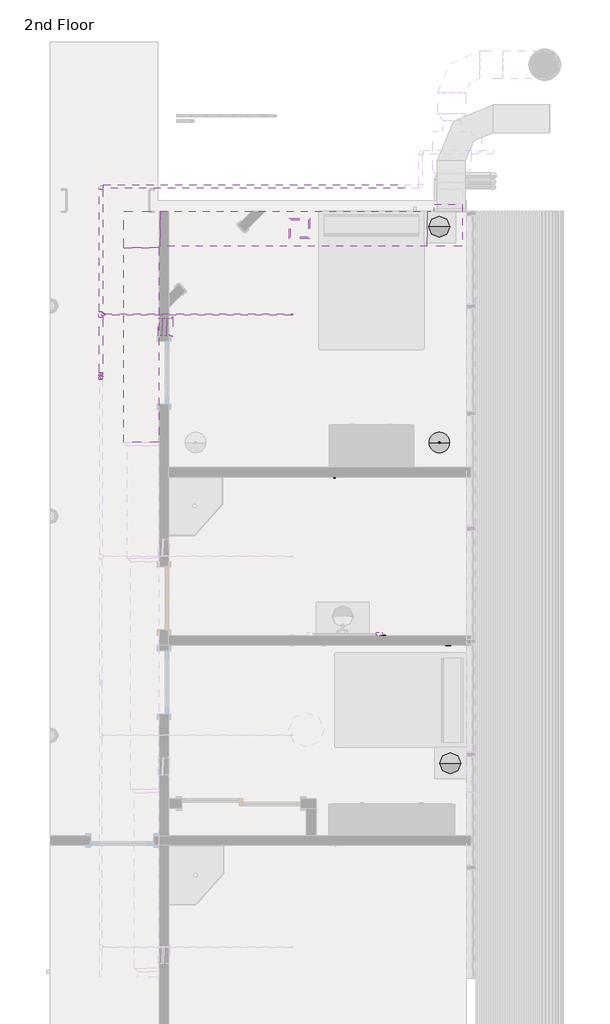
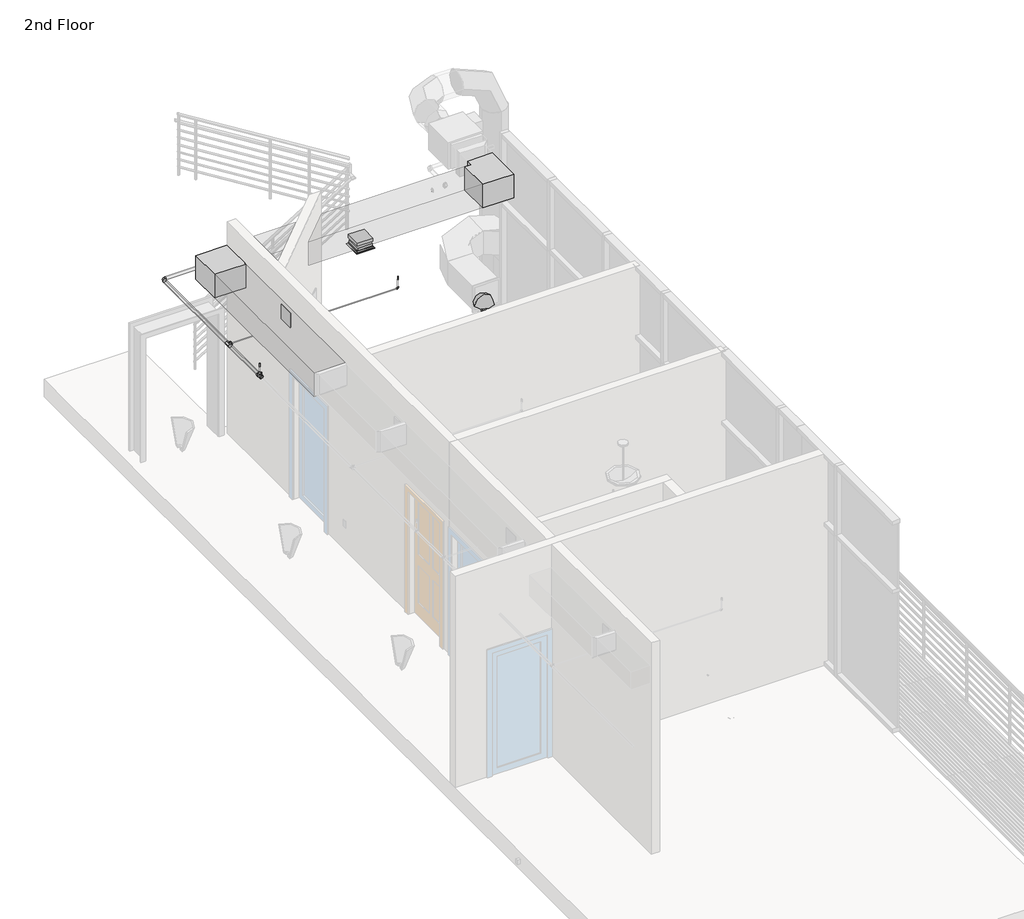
# One storey, part 6 of 7: 26 pipe fittings, 22 pipe segments, 6 proxies, 4 duct fittings, 4 duct segments, 4 light fixtures, 2 air terminals, 2 fire suppression terminals.
"""IFC4 building model written with IfcOpenShell, lengths in millimetres."""

from ifc_helpers import new_model, si_unit, point, frame, frame_2d, origin, place, context, project, spatial, polyline, circle_curve, trimmed, segment, composite_curve, outline, extrude, transform, mapped, element, save
from components import air_terminal_37217d21, receptacle_gfci_367a9a66, rectangular_duct_mitered_elbow_standard_69e3689b, rectangular_duct_mitered_transition_elbow_standard_b977c078, rectangular_duct_takeoff_sidewall_standard_8ecd27dc, fire_suppression_terminal_f250fbbb, light_fixture_120v_8a54b260, table_lamp_hemispheric_60w_120v_02721d88, bow_series_bow_series_fd234733, pipe_cross1_standard_2_39504a02, pipe_elbow_standard_aad62f2d, pipe_elbow_standard_764eecca, pipe_pvc_bend_standard_9d146105, pipe_pvc_bend_standard_c0176095, pipe_pvc_short_sanitary_tee_standard_09ca7ede, pipe_pvc_transition_eccentric_standard_ba6eeb78, pipe_pvc_transition_eccentric_standard_ac0fe892, pipe_tee_standard_36278b8a, pipe_transition_eccentric_standard_8ef0957a, pipe_transition_eccentric_standard_a6a91236, pipe_transition_eccentric_standard_83c73321

model = new_model("IFC4")

# Units and contexts
model_context = context("Model", 3, world=origin())
ifc_project = project(units=[si_unit("LENGTHUNIT", "METRE", prefix="MILLI")], contexts=[model_context])

# Site, building, storey
site = spatial("IfcSite", under=ifc_project)
building = spatial("IfcBuilding", under=site)
storey = spatial("IfcBuildingStorey", under=building, Name="2nd Floor", Elevation=7924.8)

# Air terminals
placement = place(None, origin())
air_terminal_shape = air_terminal_37217d21(model_context)
element("IfcAirTerminal", 1, ObjectType="Sidewall Diffuser : 10\" x 10\"", at=placement, inside=storey, context=model_context, shape_type="MappedRepresentation", body=[
    mapped(air_terminal_shape, transform((-2699.6858348, 7475.959643, 10972.8), x_axis=(0.0, 1.0, 0.0), y_axis=(-1.0, 0.0, 0.0), z_axis=(0.0, 0.0, 1.0))),
])
element("IfcAirTerminal", 2, ObjectType="Sidewall Diffuser : 10\" x 10\"", at=placement, inside=storey, context=model_context, shape_type="MappedRepresentation", body=[
    mapped(air_terminal_shape, transform((-852.834622, 8898.359643, 10609.3939384), x_axis=(0.0, 1.0, 0.0), y_axis=(0.0, 0.0, 1.0), z_axis=(1.0, 0.0, 0.0))),
])

# Proxies
receptacle_gfci_shape = receptacle_gfci_367a9a66(model_context)
element("IfcBuildingElementProxy", 3, Name="Receptacle : Standard", ObjectType="Receptacle : Standard", at=placement, inside=storey, context=model_context, shape_type="MappedRepresentation", body=[
    mapped(receptacle_gfci_shape, transform((-1012.6439612, 9152.359643, 7772.4), x_axis=(1.0, 0.0, 0.0), y_axis=(0.0, 0.0, 1.0), z_axis=(0.0, -1.0, 0.0))),
])
element("IfcBuildingElementProxy", 4, Name="Receptacle : Standard", ObjectType="Receptacle : Standard", at=placement, inside=storey, context=model_context, shape_type="MappedRepresentation", body=[
    mapped(receptacle_gfci_shape, transform((-1041.1604947, 5438.4810017, 8382.0), x_axis=(-1.0, 0.0, 0.0), y_axis=(0.0, 0.0, 1.0), z_axis=(0.0, 1.0, 0.0))),
])
element("IfcBuildingElementProxy", 5, Name="Receptacle : Standard", ObjectType="Receptacle : Standard", at=placement, inside=storey, context=model_context, shape_type="MappedRepresentation", body=[
    mapped(receptacle_gfci_shape, transform((1171.7560388, 5438.4810017, 8382.0), x_axis=(-1.0, 0.0, 0.0), y_axis=(0.0, 0.0, 1.0), z_axis=(0.0, 1.0, 0.0))),
])
element("IfcBuildingElementProxy", 6, Name="Receptacle : Standard", ObjectType="Receptacle : Standard", at=placement, inside=storey, context=model_context, shape_type="MappedRepresentation", body=[
    mapped(receptacle_gfci_shape, transform((358.9560388, 3000.0810017, 8382.0), x_axis=(-1.0, 0.0, 0.0), y_axis=(0.0, 0.0, 1.0), z_axis=(0.0, 1.0, 0.0))),
])
element("IfcBuildingElementProxy", 7, Name="Receptacle : Standard", ObjectType="Receptacle : Standard", at=placement, inside=storey, context=model_context, shape_type="MappedRepresentation", body=[
    mapped(receptacle_gfci_shape, transform((1298.7560388, 2860.3810017, 8382.0), x_axis=(1.0, 0.0, 0.0), y_axis=(0.0, 0.0, 1.0), z_axis=(0.0, -1.0, 0.0))),
])
element("IfcBuildingElementProxy", 8, Name="Receptacle : Standard", ObjectType="Receptacle : Standard", at=placement, inside=storey, context=model_context, shape_type="MappedRepresentation", body=[
    mapped(receptacle_gfci_shape, transform((381.2395053, 100.9674546, 8382.0), x_axis=(-1.0, 0.0, 0.0), y_axis=(0.0, 0.0, 1.0), z_axis=(0.0, 1.0, 0.0))),
])

# Duct fittings
rectangular_duct_mitered_elbow_standard_shape = rectangular_duct_mitered_elbow_standard_69e3689b(model_context)
element("IfcDuctFitting", 9, ObjectType="Rectangular Duct Mitered Elbow : Standard", at=placement, inside=storey, context=model_context, shape_type="MappedRepresentation", body=[
    mapped(rectangular_duct_mitered_elbow_standard_shape, transform((-3149.3604947, 8898.359643, 10972.8), x_axis=(0.0, 1.0, 0.0), y_axis=(1.0, 0.0, 0.0), z_axis=(0.0, 0.0, -1.0))),
])
rectangular_duct_mitered_transition_elbow_standard_shape = rectangular_duct_mitered_transition_elbow_standard_b977c078(model_context)
element("IfcDuctFitting", 10, ObjectType="Rectangular Duct Mitered Transition Elbow : Standard", at=placement, inside=storey, context=model_context, shape_type="MappedRepresentation", body=[
    mapped(rectangular_duct_mitered_transition_elbow_standard_shape, transform((1302.1183521, 8898.359643, 10972.8), x_axis=(1.0, 0.0, 0.0), y_axis=(0.0, 1.0, 0.0), z_axis=(0.0, 0.0, 1.0))),
])
rectangular_duct_takeoff_sidewall_standard_shape = rectangular_duct_takeoff_sidewall_standard_8ecd27dc(model_context)
element("IfcDuctFitting", 11, ObjectType="Rectangular Duct Takeoff - Sidewall : Standard", at=placement, inside=storey, context=model_context, shape_type="MappedRepresentation", body=[
    mapped(rectangular_duct_takeoff_sidewall_standard_shape, transform((-2895.3604947, 7475.959643, 10972.8), x_axis=(1.0, 0.0, 0.0), y_axis=(0.0, -1.0, 0.0), z_axis=(0.0, 0.0, -1.0))),
])
element("IfcDuctFitting", 12, ObjectType="Rectangular Duct Takeoff - Sidewall : Standard", at=placement, inside=storey, context=model_context, shape_type="MappedRepresentation", body=[
    mapped(rectangular_duct_takeoff_sidewall_standard_shape, transform((-852.834622, 8898.359643, 10769.6), x_axis=(0.0, 0.0, -1.0), y_axis=(0.0, 1.0, 0.0), z_axis=(1.0, 0.0, 0.0))),
])

# Duct segments
element("IfcDuctSegment", 13, ObjectType="Mitered Elbows / Taps", at=placement, inside=storey, context=model_context, shape_type="SweptSolid", body=[
    extrude(outline(polyline([(997.3183521, 9152.359643), (997.3183521, 8644.359643), (-2869.9604947, 8644.359643), (-2869.9604947, 9152.359643), (997.3183521, 9152.359643)])), frame((0.0, 0.0, 10769.6), z_axis=(0.0, 0.0, 1.0), x_axis=(1.0, 0.0, 0.0)), (0.0, 0.0, 1.0), 406.4),
])
element("IfcDuctSegment", 14, ObjectType="Mitered Elbows / Taps", at=placement, inside=storey, context=model_context, shape_type="SweptSolid", body=[
    extrude(outline(polyline([(-979.834622, 9025.359643), (-725.834622, 9025.359643), (-725.834622, 8771.359643), (-979.834622, 8771.359643), (-979.834622, 9025.359643)])), frame((0.0, 0.0, 10685.5939384), z_axis=(0.0, 0.0, 1.0), x_axis=(1.0, 0.0, 0.0)), (0.0, 0.0, 1.0), 33.2060616),
])
element("IfcDuctSegment", 15, ObjectType="Mitered Elbows / Taps Sidewall", at=placement, inside=storey, context=model_context, shape_type="SweptSolid", body=[
    extrude(outline(polyline([(-2844.5604947, 7348.959643), (-2844.5604947, 7602.959643), (-2775.8858348, 7602.959643), (-2775.8858348, 7348.959643), (-2844.5604947, 7348.959643)])), frame((0.0, 0.0, 10845.8), z_axis=(0.0, 0.0, 1.0), x_axis=(1.0, 0.0, 0.0)), (0.0, 0.0, 1.0), 254.0),
])
element("IfcDuctSegment", 16, ObjectType="Mitered Elbows / Tees", at=placement, inside=storey, context=model_context, shape_type="SweptSolid", body=[
    extrude(outline(polyline([(-2895.3604947, 5800.4310017), (-3403.3604947, 5800.4310017), (-3403.3604947, 8618.959643), (-2895.3604947, 8618.959643), (-2895.3604947, 5800.4310017)])), frame((0.0, 0.0, 10769.6), z_axis=(0.0, 0.0, 1.0), x_axis=(1.0, 0.0, 0.0)), (0.0, 0.0, 1.0), 406.4),
])

# Fire suppression terminals
fire_suppression_terminal_shape = fire_suppression_terminal_f250fbbb(model_context)
element("IfcFireSuppressionTerminal", 17, ObjectType="Sprinkler - Upright : 1/2\" Upright", at=placement, inside=storey, context=model_context, shape_type="MappedRepresentation", body=[
    mapped(fire_suppression_terminal_shape, transform((-3733.5604947, 6767.5768256, 10820.4), x_axis=(1.0, 0.0, 0.0), y_axis=(0.0, 1.0, 0.0), z_axis=(0.0, 0.0, 1.0))),
])
element("IfcFireSuppressionTerminal", 18, ObjectType="Sprinkler - Upright : 1/2\" Upright", at=placement, inside=storey, context=model_context, shape_type="MappedRepresentation", body=[
    mapped(fire_suppression_terminal_shape, transform((-961.8439612, 7654.6310017, 10820.4), x_axis=(1.0, 0.0, 0.0), y_axis=(0.0, 1.0, 0.0), z_axis=(0.0, 0.0, 1.0))),
])

# Light fixtures
light_fixture_120v_shape = light_fixture_120v_8a54b260(model_context)
element("IfcLightFixture", 19, ObjectType="Floor Lamp - Torchiere : 120V", at=placement, inside=storey, context=model_context, shape_type="MappedRepresentation", body=[
    mapped(light_fixture_120v_shape, transform((1171.7560388, 5799.559643, 7924.8), x_axis=(1.0, 0.0, 0.0), y_axis=(0.0, 1.0, 0.0), z_axis=(0.0, 0.0, 1.0))),
])
table_lamp_hemispheric_60w_120v_shape = table_lamp_hemispheric_60w_120v_02721d88(model_context)
element("IfcLightFixture", 20, ObjectType="Table Lamp - Hemispheric : 60W - 120V", at=placement, inside=storey, context=model_context, shape_type="MappedRepresentation", body=[
    mapped(table_lamp_hemispheric_60w_120v_shape, transform((1171.7560388, 8923.759643, 8521.7), x_axis=(1.0, 0.0, 0.0), y_axis=(0.0, 1.0, 0.0), z_axis=(0.0, 0.0, 1.0))),
])
element("IfcLightFixture", 21, ObjectType="Table Lamp - Hemispheric : 60W - 120V", at=placement, inside=storey, context=model_context, shape_type="MappedRepresentation", body=[
    mapped(table_lamp_hemispheric_60w_120v_shape, transform((1330.5060388, 1152.2310017, 8521.7), x_axis=(1.0, 0.0, 0.0), y_axis=(0.0, 1.0, 0.0), z_axis=(0.0, 0.0, 1.0))),
])
bow_series_bow_series_shape = bow_series_bow_series_fd234733(model_context)
element("IfcLightFixture", 22, ObjectType="bow series : bow series", at=placement, inside=storey, context=model_context, shape_type="MappedRepresentation", body=[
    mapped(bow_series_bow_series_shape, transform((299.4311388, 3035.8061017, 9144.0), x_axis=(-1.0, 0.0, 0.0), y_axis=(0.0, -1.0, 0.0), z_axis=(0.0, 0.0, 1.0))),
])

# Pipe fittings
pipe_cross1_standard_2_shape = pipe_cross1_standard_2_39504a02(model_context)
element("IfcPipeFitting", 23, ObjectType="Pipe Cross1 : Standard 2", at=placement, inside=storey, context=model_context, shape_type="MappedRepresentation", body=[
    mapped(pipe_cross1_standard_2_shape, transform((-937.0514215, 5355.9306764, 7213.6), x_axis=(-1.0, 0.0, 0.0), y_axis=(0.0, 1.0, 0.0), z_axis=(0.0, 0.0, -1.0))),
])
pipe_elbow_standard_shape = pipe_elbow_standard_aad62f2d(model_context)
element("IfcPipeFitting", 24, ObjectType="Pipe Elbow : Standard", at=placement, inside=storey, context=model_context, shape_type="MappedRepresentation", body=[
    mapped(pipe_elbow_standard_shape, transform((-347.7399342, 5355.9306764, 7213.6), x_axis=(0.0, 0.0, -1.0), y_axis=(-1.0, 0.0, 0.0), z_axis=(0.0, 1.0, 0.0))),
])
element("IfcPipeFitting", 25, ObjectType="Pipe Elbow : Standard", at=placement, inside=storey, context=model_context, shape_type="MappedRepresentation", body=[
    mapped(pipe_elbow_standard_shape, transform((-347.7399342, 5355.9306764, 8428.0375), x_axis=(0.0, 0.0, 1.0), y_axis=(0.0, -1.0, 0.0), z_axis=(1.0, 0.0, 0.0))),
])
pipe_elbow_standard_2_shape = pipe_elbow_standard_764eecca(model_context)
element("IfcPipeFitting", 26, ObjectType="Pipe Elbow : Standard", at=placement, inside=storey, context=model_context, shape_type="MappedRepresentation", body=[
    mapped(pipe_elbow_standard_2_shape, transform((1321.5267673, 8799.990828, 7315.2), x_axis=(0.0, -1.0, 0.0), y_axis=(-1.0, 0.0, 0.0), z_axis=(0.0, 0.0, -1.0))),
])
element("IfcPipeFitting", 27, ObjectType="Pipe Elbow : Standard", at=placement, inside=storey, context=model_context, shape_type="MappedRepresentation", body=[
    mapped(pipe_elbow_standard_2_shape, transform((-1039.2875177, 8895.6114915, 7315.2), x_axis=(0.0, 1.0, 0.0), y_axis=(1.0, 0.0, 0.0), z_axis=(0.0, 0.0, -1.0))),
])
element("IfcPipeFitting", 28, ObjectType="Pipe Elbow : Standard", at=placement, inside=storey, context=model_context, shape_type="MappedRepresentation", body=[
    mapped(pipe_elbow_standard_2_shape, transform((1239.0339673, 8895.6114915, 7315.2), x_axis=(0.0, -1.0, 0.0), y_axis=(-1.0, 0.0, 0.0), z_axis=(0.0, 0.0, -1.0))),
])
element("IfcPipeFitting", 29, ObjectType="Pipe Elbow : Standard", at=placement, inside=storey, context=model_context, shape_type="MappedRepresentation", body=[
    mapped(pipe_elbow_standard_2_shape, transform((-937.0514215, 8799.990828, 7315.2), x_axis=(-1.0, 0.0, 0.0), y_axis=(0.0, -1.0, 0.0), z_axis=(0.0, 0.0, 1.0))),
])
element("IfcPipeFitting", 30, ObjectType="Pipe Elbow1 : Standard 2", at=placement, inside=storey, context=model_context, shape_type="MappedRepresentation", body=[
    mapped(pipe_elbow_standard_2_shape, transform((-3733.5604947, 9507.959643, 10668.0), x_axis=(0.0, 1.0, 0.0), y_axis=(1.0, 0.0, 0.0), z_axis=(0.0, 0.0, -1.0))),
])
element("IfcPipeFitting", 31, ObjectType="Pipe Elbow1 : Standard 2", at=placement, inside=storey, context=model_context, shape_type="MappedRepresentation", body=[
    mapped(pipe_elbow_standard_2_shape, transform((-937.0514215, 5466.2619422, 7213.6), x_axis=(0.0, 1.0, 0.0), y_axis=(0.0, 0.0, 1.0), z_axis=(1.0, 0.0, 0.0))),
])
element("IfcPipeFitting", 32, ObjectType="Pipe Elbow1 : Standard 2", at=placement, inside=storey, context=model_context, shape_type="MappedRepresentation", body=[
    mapped(pipe_elbow_standard_2_shape, transform((-937.0514215, 5466.2619422, 7315.2), x_axis=(0.0, 0.0, 1.0), y_axis=(0.0, 1.0, 0.0), z_axis=(-1.0, 0.0, 0.0))),
])
element("IfcPipeFitting", 33, ObjectType="Pipe Elbow1 : Standard 2", at=placement, inside=storey, context=model_context, shape_type="MappedRepresentation", body=[
    mapped(pipe_elbow_standard_shape, transform((-961.8439612, 7654.6310017, 10668.0), x_axis=(0.0, 0.0, -1.0), y_axis=(-1.0, 0.0, 0.0), z_axis=(0.0, 1.0, 0.0))),
])
pipe_pvc_bend_standard_shape = pipe_pvc_bend_standard_9d146105(model_context)
element("IfcPipeFitting", 34, ObjectType="Pipe PVC Bend : Standard", at=placement, inside=storey, context=model_context, shape_type="MappedRepresentation", body=[
    mapped(pipe_pvc_bend_standard_shape, transform((-1102.7042057, 9004.6705514, 7349.2766607), x_axis=(-0.9999459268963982, 0.0, 0.010399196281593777), y_axis=(0.00010831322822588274, -0.9999457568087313, 0.010414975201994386), z_axis=(0.010398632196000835, 0.010415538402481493, 0.9998916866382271))),
])
pipe_pvc_bend_standard_2_shape = pipe_pvc_bend_standard_c0176095(model_context)
element("IfcPipeFitting", 35, ObjectType="Pipe PVC Bend : Standard", at=placement, inside=storey, context=model_context, shape_type="MappedRepresentation", body=[
    mapped(pipe_pvc_bend_standard_2_shape, transform((-1260.8954878, 5211.6750912, 7390.4348559), x_axis=(-0.9999457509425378, 0.0, 0.010416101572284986), y_axis=(0.010415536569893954, 0.010415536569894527, 0.9998915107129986), z_axis=(-0.00010848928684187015, 0.9999457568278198, -0.010414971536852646))),
])
element("IfcPipeFitting", 36, ObjectType="Pipe PVC Bend : Standard", at=placement, inside=storey, context=model_context, shape_type="MappedRepresentation", body=[
    mapped(pipe_pvc_bend_standard_2_shape, transform((-1394.1145616, 5213.0626394, 7525.04163), x_axis=(-0.7034146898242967, 0.007326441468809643, 0.7107419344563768), y_axis=(-0.7107796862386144, -0.007403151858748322, -0.7033757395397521), z_axis=(0.00010848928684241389, -0.9999457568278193, 0.010414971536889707))),
])
pipe_pvc_short_sanitary_tee_standard_shape = pipe_pvc_short_sanitary_tee_standard_09ca7ede(model_context)
element("IfcPipeFitting", 37, ObjectType="Pipe PVC Short Sanitary Tee : Standard", at=placement, inside=storey, context=model_context, shape_type="MappedRepresentation", body=[
    mapped(pipe_pvc_short_sanitary_tee_standard_shape, transform((-1102.7042057, 5211.6750912, 7388.7870301), x_axis=(0.0, -0.9999457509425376, 0.010416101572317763), y_axis=(-0.9999457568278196, 0.00010848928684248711, 0.010414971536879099), z_axis=(-0.010415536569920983, -0.010415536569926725, -0.9998915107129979))),
])
pipe_pvc_transition_eccentric_standard_shape = pipe_pvc_transition_eccentric_standard_ba6eeb78(model_context)
element("IfcPipeFitting", 38, ObjectType="Pipe PVC Transition Eccentric : Standard", at=placement, inside=storey, context=model_context, shape_type="MappedRepresentation", body=[
    mapped(pipe_pvc_transition_eccentric_standard_shape, transform((-1219.7436589, 5211.6750912, 7390.006191), x_axis=(-0.9999457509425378, 0.0, 0.010416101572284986), y_axis=(0.01041553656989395, 0.01041553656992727, 0.9998915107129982), z_axis=(-0.00010848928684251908, 0.9999457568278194, -0.010414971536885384))),
])
pipe_pvc_transition_eccentric_standard_2_shape = pipe_pvc_transition_eccentric_standard_ac0fe892(model_context)
element("IfcPipeFitting", 39, ObjectType="Pipe PVC Transition Eccentric : Standard", at=placement, inside=storey, context=model_context, shape_type="MappedRepresentation", body=[
    mapped(pipe_pvc_transition_eccentric_standard_2_shape, transform((-1082.1500177, 5385.6489915, 7315.2), x_axis=(-1.0, 0.0, 0.0), y_axis=(0.0, -1.0, 0.0), z_axis=(0.0, 0.0, 1.0))),
])
pipe_tee_standard_shape = pipe_tee_standard_36278b8a(model_context)
element("IfcPipeFitting", 40, ObjectType="Pipe Tee : Standard", at=placement, inside=storey, context=model_context, shape_type="MappedRepresentation", body=[
    mapped(pipe_tee_standard_shape, transform((-1039.2875177, 5385.6489915, 7315.2), x_axis=(0.0, 1.0, 0.0), y_axis=(1.0, 0.0, 0.0), z_axis=(0.0, 0.0, -1.0))),
])
element("IfcPipeFitting", 41, ObjectType="Pipe Tee : Standard", at=placement, inside=storey, context=model_context, shape_type="MappedRepresentation", body=[
    mapped(pipe_tee_standard_shape, transform((-3733.5604947, 6767.5768256, 10668.0), x_axis=(0.0, -1.0, 0.0), y_axis=(0.0, 0.0, -1.0), z_axis=(1.0, 0.0, 0.0))),
])
element("IfcPipeFitting", 42, ObjectType="Pipe Tee : Standard", at=placement, inside=storey, context=model_context, shape_type="MappedRepresentation", body=[
    mapped(pipe_tee_standard_shape, transform((-3733.5604947, 7654.6310017, 10668.0), x_axis=(0.0, 1.0, 0.0), y_axis=(-1.0, 0.0, 0.0), z_axis=(0.0, 0.0, 1.0))),
])
pipe_transition_eccentric_standard_shape = pipe_transition_eccentric_standard_8ef0957a(model_context)
element("IfcPipeFitting", 43, ObjectType="Pipe Transition Eccentric : Standard", at=placement, inside=storey, context=model_context, shape_type="MappedRepresentation", body=[
    mapped(pipe_transition_eccentric_standard_shape, transform((-881.4889215, 5355.9306764, 7213.6), x_axis=(1.0, 0.0, 0.0), y_axis=(0.0, -1.0, 0.0), z_axis=(0.0, 0.0, -1.0))),
])
element("IfcPipeFitting", 44, ObjectType="Pipe Transition Eccentric : Standard", at=placement, inside=storey, context=model_context, shape_type="MappedRepresentation", body=[
    mapped(pipe_transition_eccentric_standard_shape, transform((-992.6139215, 5355.9306764, 7213.6), x_axis=(-1.0, 0.0, 0.0), y_axis=(0.0, 1.0, 0.0), z_axis=(0.0, 0.0, -1.0))),
])
element("IfcPipeFitting", 45, ObjectType="Pipe Transition Eccentric : Standard", at=placement, inside=storey, context=model_context, shape_type="MappedRepresentation", body=[
    mapped(pipe_transition_eccentric_standard_shape, transform((-3733.5604947, 6767.5768256, 10710.8625), x_axis=(0.0, 0.0, 1.0), y_axis=(1.0, 0.0, 0.0), z_axis=(0.0, 1.0, 0.0))),
])
element("IfcPipeFitting", 46, ObjectType="Pipe Transition Eccentric : Standard", at=placement, inside=storey, context=model_context, shape_type="MappedRepresentation", body=[
    mapped(pipe_transition_eccentric_standard_shape, transform((-3690.6979947, 7654.6310017, 10668.0), x_axis=(1.0, 0.0, 0.0), y_axis=(0.0, 1.0, 0.0), z_axis=(0.0, 0.0, 1.0))),
])
pipe_transition_eccentric_standard_2_shape = pipe_transition_eccentric_standard_a6a91236(model_context)
element("IfcPipeFitting", 47, ObjectType="Pipe Transition Eccentric : Standard", at=placement, inside=storey, context=model_context, shape_type="MappedRepresentation", body=[
    mapped(pipe_transition_eccentric_standard_2_shape, transform((-1039.2875177, 5342.7864915, 7315.2), x_axis=(0.0, -1.0, 0.0), y_axis=(-1.0, 0.0, 0.0), z_axis=(0.0, 0.0, -1.0))),
])
pipe_transition_eccentric_standard_3_shape = pipe_transition_eccentric_standard_83c73321(model_context)
element("IfcPipeFitting", 48, ObjectType="Pipe Transition Eccentric : Standard", at=placement, inside=storey, context=model_context, shape_type="MappedRepresentation", body=[
    mapped(pipe_transition_eccentric_standard_3_shape, transform((-3733.5604947, 6724.7143256, 10668.0), x_axis=(0.0, -1.0, 0.0), y_axis=(1.0, 0.0, 0.0), z_axis=(0.0, 0.0, 1.0))),
])

# Pipe segments
element("IfcPipeSegment", 49, ObjectType="PVC", at=placement, inside=storey, context=model_context, shape_type="SweptSolid", body=[
    extrude(outline(composite_curve([segment(trimmed(circle_curve(frame_2d((0.0, 44.45)), 44.45), [point((-44.4475889, 43.9870294))], [point((-0.4629706, 88.8975889))], False, "CARTESIAN"), True, "CONTINUOUS"), segment(trimmed(circle_curve(frame_2d((0.0, 44.45)), 44.45), [point((-0.4629706, 88.8975889))], [point((44.4475888, 44.9129706))], False, "CARTESIAN"), True, "CONTINUOUS"), segment(trimmed(circle_curve(frame_2d((0.0, 44.45)), 44.45), [point((44.4475888, 44.9129706))], [point((0.4629706, 0.0024112))], False, "CARTESIAN"), True, "CONTINUOUS"), segment(trimmed(circle_curve(frame_2d((0.0, 44.45)), 44.45), [point((0.4629706, 0.0024112))], [point((-44.4475889, 43.9870294))], False, "CARTESIAN"), True, "CONTINUOUS")], self_intersect=False)), frame((-1175.7173222, 5167.2250912, 7389.5475834), z_axis=(-0.9999457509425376, 0.0, 0.010416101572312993), x_axis=(0.010416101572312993, 0.0, 0.9999457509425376)), (0.0, 0.0, 1.0), 44.0287252),
])
element("IfcPipeSegment", 50, ObjectType="PVC", at=placement, inside=storey, context=model_context, shape_type="SweptSolid", body=[
    extrude(outline(composite_curve([segment(trimmed(circle_curve(frame_2d((0.0, 30.1625)), 30.1625), [point((-0.0046039, 60.3249996))], [point((30.1624996, 30.1671038))], False, "CARTESIAN"), True, "CONTINUOUS"), segment(trimmed(circle_curve(frame_2d((0.0, 30.1625)), 30.1625), [point((30.1624996, 30.1671038))], [point((0.0046038, 3e-07))], False, "CARTESIAN"), True, "CONTINUOUS"), segment(trimmed(circle_curve(frame_2d((0.0, 30.1625)), 30.1625), [point((0.0046038, 3e-07))], [point((-30.1624997, 30.1578961))], False, "CARTESIAN"), True, "CONTINUOUS"), segment(trimmed(circle_curve(frame_2d((0.0, 30.1625)), 30.1625), [point((-30.1624997, 30.1578961))], [point((-0.0046039, 60.3249996))], False, "CARTESIAN"), True, "CONTINUOUS")], self_intersect=False)), frame((-1274.2104677, 5181.6528763, 7404.1994371), z_axis=(-0.7034146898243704, 0.007326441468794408, 0.7107419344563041), x_axis=(0.7107796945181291, 0.007250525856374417, 0.7033773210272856)), (0.0, 0.0, 1.0), 151.5309753),
])
element("IfcPipeSegment", 51, ObjectType="PVC", at=placement, inside=storey, context=model_context, shape_type="SweptSolid", body=[
    extrude(outline(composite_curve([segment(trimmed(circle_curve(frame_2d((0.0, 44.4500001)), 44.45), [point((-44.45, 44.4500001))], [point((0.0, 88.9))], False, "CARTESIAN"), True, "CONTINUOUS"), segment(trimmed(circle_curve(frame_2d((0.0, 44.4500001)), 44.45), [point((0.0, 88.9))], [point((44.45, 44.4500001))], False, "CARTESIAN"), True, "CONTINUOUS"), segment(trimmed(circle_curve(frame_2d((0.0, 44.4500001)), 44.45), [point((44.45, 44.4500001))], [point((0.0, 0.0))], False, "CARTESIAN"), True, "CONTINUOUS"), segment(trimmed(circle_curve(frame_2d((0.0, 44.4500001)), 44.45), [point((0.0, 0.0))], [point((-44.45, 44.4500001))], False, "CARTESIAN"), True, "CONTINUOUS")], self_intersect=False)), frame((-1102.7042057, 8943.8923619, 7305.4573553), z_axis=(0.0, -0.9999457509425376, 0.010416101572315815), x_axis=(1.0, 0.0, 0.0)), (0.0, 0.0, 1.0), 3659.8656941),
])
element("IfcPipeSegment", 52, ObjectType="PVC", at=placement, inside=storey, context=model_context, shape_type="SweptSolid", body=[
    extrude(outline(composite_curve([segment(trimmed(circle_curve(frame_2d((0.0, 44.45)), 44.45), [point((-44.45, 44.45))], [point((0.0, 88.9))], False, "CARTESIAN"), True, "CONTINUOUS"), segment(trimmed(circle_curve(frame_2d((0.0, 44.45)), 44.45), [point((0.0, 88.9))], [point((44.45, 44.45))], False, "CARTESIAN"), True, "CONTINUOUS"), segment(trimmed(circle_curve(frame_2d((0.0, 44.45)), 44.45), [point((44.45, 44.45))], [point((0.0, 0.0))], False, "CARTESIAN"), True, "CONTINUOUS"), segment(trimmed(circle_curve(frame_2d((0.0, 44.45)), 44.45), [point((0.0, 0.0))], [point((-44.45, 44.45))], False, "CARTESIAN"), True, "CONTINUOUS")], self_intersect=False)), frame((-1102.7042057, 5163.5817576, 7344.8355908), z_axis=(0.0, -0.9999457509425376, 0.010416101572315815), x_axis=(1.0, 0.0, 0.0)), (0.0, 0.0, 1.0), 235.1649233),
])
element("IfcPipeSegment", 53, ObjectType="PVC", at=placement, inside=storey, context=model_context, shape_type="SweptSolid", body=[
    extrude(outline(composite_curve([segment(trimmed(circle_curve(frame_2d((5385.6489915, 7315.2)), 10.668), [point((5374.9809915, 7315.2))], [point((5385.6489915, 7325.868))], False, "CARTESIAN"), True, "CONTINUOUS"), segment(trimmed(circle_curve(frame_2d((5385.6489915, 7315.2)), 10.668), [point((5385.6489915, 7325.868))], [point((5396.3169915, 7315.2))], False, "CARTESIAN"), True, "CONTINUOUS"), segment(trimmed(circle_curve(frame_2d((5385.6489915, 7315.2)), 10.668), [point((5396.3169915, 7315.2))], [point((5385.6489915, 7304.532))], False, "CARTESIAN"), True, "CONTINUOUS"), segment(trimmed(circle_curve(frame_2d((5385.6489915, 7315.2)), 10.668), [point((5385.6489915, 7304.532))], [point((5374.9809915, 7315.2))], False, "CARTESIAN"), True, "CONTINUOUS")], self_intersect=False)), frame((-2471.4913561, 0.0, 0.0), z_axis=(1.0, 0.0, 0.0), x_axis=(0.0, 1.0, 0.0)), (0.0, 0.0, 1.0), 1374.2600885),
])
element("IfcPipeSegment", 54, ObjectType="Standard", at=placement, inside=storey, context=model_context, shape_type="SweptSolid", body=[
    extrude(outline(composite_curve([segment(trimmed(circle_curve(frame_2d((7315.2, -1039.2875177)), 26.9875), [point((7315.2, -1012.3000177))], [point((7342.1875, -1039.2875177))], False, "CARTESIAN"), True, "CONTINUOUS"), segment(trimmed(circle_curve(frame_2d((7315.2, -1039.2875177)), 26.9875), [point((7342.1875, -1039.2875177))], [point((7315.2, -1066.2750177))], False, "CARTESIAN"), True, "CONTINUOUS"), segment(trimmed(circle_curve(frame_2d((7315.2, -1039.2875177)), 26.9875), [point((7315.2, -1066.2750177))], [point((7288.2125, -1039.2875177))], False, "CARTESIAN"), True, "CONTINUOUS"), segment(trimmed(circle_curve(frame_2d((7315.2, -1039.2875177)), 26.9875), [point((7288.2125, -1039.2875177))], [point((7315.2, -1012.3000177))], False, "CARTESIAN"), True, "CONTINUOUS")], self_intersect=False)), frame((0.0, 5428.5114915, 0.0), z_axis=(0.0, 1.0, 0.0), x_axis=(0.0, 0.0, 1.0)), (0.0, 0.0, 1.0), 3430.5875),
])
element("IfcPipeSegment", 55, ObjectType="Standard", at=placement, inside=storey, context=model_context, shape_type="SweptSolid", body=[
    extrude(outline(composite_curve([segment(trimmed(circle_curve(frame_2d((8895.6114915, 7315.2)), 26.9875), [point((8868.6239915, 7315.2))], [point((8895.6114915, 7342.1875))], False, "CARTESIAN"), True, "CONTINUOUS"), segment(trimmed(circle_curve(frame_2d((8895.6114915, 7315.2)), 26.9875), [point((8895.6114915, 7342.1875))], [point((8922.5989915, 7315.2))], False, "CARTESIAN"), True, "CONTINUOUS"), segment(trimmed(circle_curve(frame_2d((8895.6114915, 7315.2)), 26.9875), [point((8922.5989915, 7315.2))], [point((8895.6114915, 7288.2125))], False, "CARTESIAN"), True, "CONTINUOUS"), segment(trimmed(circle_curve(frame_2d((8895.6114915, 7315.2)), 26.9875), [point((8895.6114915, 7288.2125))], [point((8868.6239915, 7315.2))], False, "CARTESIAN"), True, "CONTINUOUS")], self_intersect=False)), frame((-1002.7750177, 0.0, 0.0), z_axis=(1.0, 0.0, 0.0), x_axis=(0.0, 1.0, 0.0)), (0.0, 0.0, 1.0), 2205.296485),
])
element("IfcPipeSegment", 56, ObjectType="Standard", at=placement, inside=storey, context=model_context, shape_type="SweptSolid", body=[
    extrude(outline(composite_curve([segment(trimmed(circle_curve(frame_2d((8799.990828, 7315.2)), 26.9875), [point((8826.978328, 7315.2))], [point((8799.990828, 7288.2125))], False, "CARTESIAN"), True, "CONTINUOUS"), segment(trimmed(circle_curve(frame_2d((8799.990828, 7315.2)), 26.9875), [point((8799.990828, 7288.2125))], [point((8773.003328, 7315.2))], False, "CARTESIAN"), True, "CONTINUOUS"), segment(trimmed(circle_curve(frame_2d((8799.990828, 7315.2)), 26.9875), [point((8773.003328, 7315.2))], [point((8799.990828, 7342.1875))], False, "CARTESIAN"), True, "CONTINUOUS"), segment(trimmed(circle_curve(frame_2d((8799.990828, 7315.2)), 26.9875), [point((8799.990828, 7342.1875))], [point((8826.978328, 7315.2))], False, "CARTESIAN"), True, "CONTINUOUS")], self_intersect=False)), frame((-900.5389215, 0.0, 0.0), z_axis=(1.0, 0.0, 0.0), x_axis=(0.0, 1.0, 0.0)), (0.0, 0.0, 1.0), 2185.5531889),
])
element("IfcPipeSegment", 57, ObjectType="Standard", at=placement, inside=storey, context=model_context, shape_type="SweptSolid", body=[
    extrude(outline(composite_curve([segment(trimmed(circle_curve(frame_2d((-347.7399342, 5355.9306764)), 7.9375), [point((-347.7399342, 5363.8681764))], [point((-339.8024342, 5355.9306764))], False, "CARTESIAN"), True, "CONTINUOUS"), segment(trimmed(circle_curve(frame_2d((-347.7399342, 5355.9306764)), 7.9375), [point((-339.8024342, 5355.9306764))], [point((-347.7399342, 5347.9931764))], False, "CARTESIAN"), True, "CONTINUOUS"), segment(trimmed(circle_curve(frame_2d((-347.7399342, 5355.9306764)), 7.9375), [point((-347.7399342, 5347.9931764))], [point((-355.6774342, 5355.9306764))], False, "CARTESIAN"), True, "CONTINUOUS"), segment(trimmed(circle_curve(frame_2d((-347.7399342, 5355.9306764)), 7.9375), [point((-355.6774342, 5355.9306764))], [point((-347.7399342, 5363.8681764))], False, "CARTESIAN"), True, "CONTINUOUS")], self_intersect=False)), frame((0.0, 0.0, 7231.0625), z_axis=(0.0, 0.0, 1.0), x_axis=(1.0, 0.0, 0.0)), (0.0, 0.0, 1.0), 1179.5125),
])
element("IfcPipeSegment", 58, ObjectType="Standard", at=placement, inside=storey, context=model_context, shape_type="SweptSolid", body=[
    extrude(outline(composite_curve([segment(trimmed(circle_curve(frame_2d((5355.9306764, 7213.6)), 7.9375), [point((5347.9931764, 7213.6))], [point((5355.9306764, 7221.5375))], False, "CARTESIAN"), True, "CONTINUOUS"), segment(trimmed(circle_curve(frame_2d((5355.9306764, 7213.6)), 7.9375), [point((5355.9306764, 7221.5375))], [point((5363.8681764, 7213.6))], False, "CARTESIAN"), True, "CONTINUOUS"), segment(trimmed(circle_curve(frame_2d((5355.9306764, 7213.6)), 7.9375), [point((5363.8681764, 7213.6))], [point((5355.9306764, 7205.6625))], False, "CARTESIAN"), True, "CONTINUOUS"), segment(trimmed(circle_curve(frame_2d((5355.9306764, 7213.6)), 7.9375), [point((5355.9306764, 7205.6625))], [point((5347.9931764, 7213.6))], False, "CARTESIAN"), True, "CONTINUOUS")], self_intersect=False)), frame((-867.9951715, 0.0, 0.0), z_axis=(1.0, 0.0, 0.0), x_axis=(0.0, 1.0, 0.0)), (0.0, 0.0, 1.0), 502.7927373),
])
element("IfcPipeSegment", 59, ObjectType="Standard", at=placement, inside=storey, context=model_context, shape_type="SweptSolid", body=[
    extrude(outline(composite_curve([segment(trimmed(circle_curve(frame_2d((5355.9306764, 7213.6)), 7.9375), [point((5363.8681764, 7213.6))], [point((5355.9306764, 7205.6625))], False, "CARTESIAN"), True, "CONTINUOUS"), segment(trimmed(circle_curve(frame_2d((5355.9306764, 7213.6)), 7.9375), [point((5355.9306764, 7205.6625))], [point((5347.9931764, 7213.6))], False, "CARTESIAN"), True, "CONTINUOUS"), segment(trimmed(circle_curve(frame_2d((5355.9306764, 7213.6)), 7.9375), [point((5347.9931764, 7213.6))], [point((5355.9306764, 7221.5375))], False, "CARTESIAN"), True, "CONTINUOUS"), segment(trimmed(circle_curve(frame_2d((5355.9306764, 7213.6)), 7.9375), [point((5355.9306764, 7221.5375))], [point((5363.8681764, 7213.6))], False, "CARTESIAN"), True, "CONTINUOUS")], self_intersect=False)), frame((-2243.0316745, 0.0, 0.0), z_axis=(1.0, 0.0, 0.0), x_axis=(0.0, 1.0, 0.0)), (0.0, 0.0, 1.0), 1236.924003),
])
element("IfcPipeSegment", 60, ObjectType="Standard", at=placement, inside=storey, context=model_context, shape_type="SweptSolid", body=[
    extrude(outline(composite_curve([segment(trimmed(circle_curve(frame_2d((0.0, -39.6875)), 39.6875), [point((0.0, -79.375))], [point((-39.6875, -39.6875))], False, "CARTESIAN"), True, "CONTINUOUS"), segment(trimmed(circle_curve(frame_2d((0.0, -39.6875)), 39.6875), [point((-39.6875, -39.6875))], [point((0.0, 0.0))], False, "CARTESIAN"), True, "CONTINUOUS"), segment(trimmed(circle_curve(frame_2d((0.0, -39.6875)), 39.6875), [point((0.0, 0.0))], [point((39.6875, -39.6875))], False, "CARTESIAN"), True, "CONTINUOUS"), segment(trimmed(circle_curve(frame_2d((0.0, -39.6875)), 39.6875), [point((39.6875, -39.6875))], [point((0.0, -79.375))], False, "CARTESIAN"), True, "CONTINUOUS")], self_intersect=False)), frame((1079.4736586, 9044.3580514, 7326.5220553), z_axis=(-0.9999456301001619, 0.0, 0.010427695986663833), x_axis=(0.010427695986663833, 0.0, 0.9999456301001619)), (0.0, 0.0, 1.0), 2121.9780316),
])
element("IfcPipeSegment", 61, ObjectType="Standard", at=placement, inside=storey, context=model_context, shape_type="SweptSolid", body=[
    extrude(outline(composite_curve([segment(trimmed(circle_curve(frame_2d((7654.6310017, 10668.0)), 7.9375), [point((7662.5685017, 10668.0))], [point((7654.6310017, 10660.0625))], False, "CARTESIAN"), True, "CONTINUOUS"), segment(trimmed(circle_curve(frame_2d((7654.6310017, 10668.0)), 7.9375), [point((7654.6310017, 10660.0625))], [point((7646.6935017, 10668.0))], False, "CARTESIAN"), True, "CONTINUOUS"), segment(trimmed(circle_curve(frame_2d((7654.6310017, 10668.0)), 7.9375), [point((7646.6935017, 10668.0))], [point((7654.6310017, 10675.9375))], False, "CARTESIAN"), True, "CONTINUOUS"), segment(trimmed(circle_curve(frame_2d((7654.6310017, 10668.0)), 7.9375), [point((7654.6310017, 10675.9375))], [point((7662.5685017, 10668.0))], False, "CARTESIAN"), True, "CONTINUOUS")], self_intersect=False)), frame((-3677.2042447, 0.0, 0.0), z_axis=(1.0, 0.0, 0.0), x_axis=(0.0, 1.0, 0.0)), (0.0, 0.0, 1.0), 2697.8977835),
])
element("IfcPipeSegment", 62, ObjectType="Standard", at=placement, inside=storey, context=model_context, shape_type="SweptSolid", body=[
    extrude(outline(composite_curve([segment(trimmed(circle_curve(frame_2d((-961.8439612, 7654.6310017)), 7.9375), [point((-953.9064612, 7654.6310017))], [point((-961.8439612, 7646.6935017))], False, "CARTESIAN"), True, "CONTINUOUS"), segment(trimmed(circle_curve(frame_2d((-961.8439612, 7654.6310017)), 7.9375), [point((-961.8439612, 7646.6935017))], [point((-969.7814612, 7654.6310017))], False, "CARTESIAN"), True, "CONTINUOUS"), segment(trimmed(circle_curve(frame_2d((-961.8439612, 7654.6310017)), 7.9375), [point((-969.7814612, 7654.6310017))], [point((-961.8439612, 7662.5685017))], False, "CARTESIAN"), True, "CONTINUOUS"), segment(trimmed(circle_curve(frame_2d((-961.8439612, 7654.6310017)), 7.9375), [point((-961.8439612, 7662.5685017))], [point((-953.9064612, 7654.6310017))], False, "CARTESIAN"), True, "CONTINUOUS")], self_intersect=False)), frame((0.0, 0.0, 10685.4625), z_axis=(0.0, 0.0, 1.0), x_axis=(1.0, 0.0, 0.0)), (0.0, 0.0, 1.0), 134.9375),
])
element("IfcPipeSegment", 63, ObjectType="Standard", at=placement, inside=storey, context=model_context, shape_type="SweptSolid", body=[
    extrude(outline(composite_curve([segment(trimmed(circle_curve(frame_2d((-3733.5604947, 6767.5768256)), 7.9375), [point((-3741.4979947, 6767.5768256))], [point((-3733.5604947, 6775.5143256))], False, "CARTESIAN"), True, "CONTINUOUS"), segment(trimmed(circle_curve(frame_2d((-3733.5604947, 6767.5768256)), 7.9375), [point((-3733.5604947, 6775.5143256))], [point((-3725.6229947, 6767.5768256))], False, "CARTESIAN"), True, "CONTINUOUS"), segment(trimmed(circle_curve(frame_2d((-3733.5604947, 6767.5768256)), 7.9375), [point((-3725.6229947, 6767.5768256))], [point((-3733.5604947, 6759.6393256))], False, "CARTESIAN"), True, "CONTINUOUS"), segment(trimmed(circle_curve(frame_2d((-3733.5604947, 6767.5768256)), 7.9375), [point((-3733.5604947, 6759.6393256))], [point((-3741.4979947, 6767.5768256))], False, "CARTESIAN"), True, "CONTINUOUS")], self_intersect=False)), frame((0.0, 0.0, 10724.35625), z_axis=(0.0, 0.0, 1.0), x_axis=(1.0, 0.0, 0.0)), (0.0, 0.0, 1.0), 96.04375),
])
element("IfcPipeSegment", 64, ObjectType="Standard", at=placement, inside=storey, context=model_context, shape_type="SweptSolid", body=[
    extrude(outline(composite_curve([segment(trimmed(circle_curve(frame_2d((10668.0, -3733.5604947)), 26.9875), [point((10668.0, -3760.5479947))], [point((10641.0125, -3733.5604947))], False, "CARTESIAN"), True, "CONTINUOUS"), segment(trimmed(circle_curve(frame_2d((10668.0, -3733.5604947)), 26.9875), [point((10641.0125, -3733.5604947))], [point((10668.0, -3706.5729947))], False, "CARTESIAN"), True, "CONTINUOUS"), segment(trimmed(circle_curve(frame_2d((10668.0, -3733.5604947)), 26.9875), [point((10668.0, -3706.5729947))], [point((10694.9875, -3733.5604947))], False, "CARTESIAN"), True, "CONTINUOUS"), segment(trimmed(circle_curve(frame_2d((10668.0, -3733.5604947)), 26.9875), [point((10694.9875, -3733.5604947))], [point((10668.0, -3760.5479947))], False, "CARTESIAN"), True, "CONTINUOUS")], self_intersect=False)), frame((0.0, 6810.4393256, 0.0), z_axis=(0.0, 1.0, 0.0), x_axis=(0.0, 0.0, 1.0)), (0.0, 0.0, 1.0), 801.3291761),
])
element("IfcPipeSegment", 65, ObjectType="Standard", at=placement, inside=storey, context=model_context, shape_type="SweptSolid", body=[
    extrude(outline(composite_curve([segment(trimmed(circle_curve(frame_2d((10668.0, -3733.5604947)), 26.9875), [point((10668.0, -3760.5479947))], [point((10641.0125, -3733.5604947))], False, "CARTESIAN"), True, "CONTINUOUS"), segment(trimmed(circle_curve(frame_2d((10668.0, -3733.5604947)), 26.9875), [point((10641.0125, -3733.5604947))], [point((10668.0, -3706.5729947))], False, "CARTESIAN"), True, "CONTINUOUS"), segment(trimmed(circle_curve(frame_2d((10668.0, -3733.5604947)), 26.9875), [point((10668.0, -3706.5729947))], [point((10694.9875, -3733.5604947))], False, "CARTESIAN"), True, "CONTINUOUS"), segment(trimmed(circle_curve(frame_2d((10668.0, -3733.5604947)), 26.9875), [point((10694.9875, -3733.5604947))], [point((10668.0, -3760.5479947))], False, "CARTESIAN"), True, "CONTINUOUS")], self_intersect=False)), frame((0.0, 7697.4935017, 0.0), z_axis=(0.0, 1.0, 0.0), x_axis=(0.0, 0.0, 1.0)), (0.0, 0.0, 1.0), 1773.9536413),
])
element("IfcPipeSegment", 66, ObjectType="Standard", at=placement, inside=storey, context=model_context, shape_type="SweptSolid", body=[
    extrude(outline(composite_curve([segment(trimmed(circle_curve(frame_2d((9507.959643, 10668.0)), 26.9875), [point((9534.947143, 10668.0))], [point((9507.959643, 10641.0125))], False, "CARTESIAN"), True, "CONTINUOUS"), segment(trimmed(circle_curve(frame_2d((9507.959643, 10668.0)), 26.9875), [point((9507.959643, 10641.0125))], [point((9480.972143, 10668.0))], False, "CARTESIAN"), True, "CONTINUOUS"), segment(trimmed(circle_curve(frame_2d((9507.959643, 10668.0)), 26.9875), [point((9480.972143, 10668.0))], [point((9507.959643, 10694.9875))], False, "CARTESIAN"), True, "CONTINUOUS"), segment(trimmed(circle_curve(frame_2d((9507.959643, 10668.0)), 26.9875), [point((9507.959643, 10694.9875))], [point((9534.947143, 10668.0))], False, "CARTESIAN"), True, "CONTINUOUS")], self_intersect=False)), frame((-3697.0479947, 0.0, 0.0), z_axis=(1.0, 0.0, 0.0), x_axis=(0.0, 1.0, 0.0)), (0.0, 0.0, 1.0), 4367.2392937),
])
element("IfcPipeSegment", 67, ObjectType="Standard", at=placement, inside=storey, context=model_context, shape_type="SweptSolid", body=[
    extrude(outline(composite_curve([segment(trimmed(circle_curve(frame_2d((7213.6, -937.0514215)), 26.9875), [point((7213.6, -910.0639215))], [point((7240.5875, -937.0514215))], False, "CARTESIAN"), True, "CONTINUOUS"), segment(trimmed(circle_curve(frame_2d((7213.6, -937.0514215)), 26.9875), [point((7240.5875, -937.0514215))], [point((7213.6, -964.0389215))], False, "CARTESIAN"), True, "CONTINUOUS"), segment(trimmed(circle_curve(frame_2d((7213.6, -937.0514215)), 26.9875), [point((7213.6, -964.0389215))], [point((7186.6125, -937.0514215))], False, "CARTESIAN"), True, "CONTINUOUS"), segment(trimmed(circle_curve(frame_2d((7213.6, -937.0514215)), 26.9875), [point((7186.6125, -937.0514215))], [point((7213.6, -910.0639215))], False, "CARTESIAN"), True, "CONTINUOUS")], self_intersect=False)), frame((0.0, 5411.4931764, 0.0), z_axis=(0.0, 1.0, 0.0), x_axis=(0.0, 0.0, 1.0)), (0.0, 0.0, 1.0), 18.2562658),
])
element("IfcPipeSegment", 68, ObjectType="Standard", at=placement, inside=storey, context=model_context, shape_type="SweptSolid", body=[
    extrude(outline(composite_curve([segment(trimmed(circle_curve(frame_2d((-937.0514215, 5466.2619422)), 26.9875), [point((-910.0639215, 5466.2619422))], [point((-937.0514215, 5439.2744422))], False, "CARTESIAN"), True, "CONTINUOUS"), segment(trimmed(circle_curve(frame_2d((-937.0514215, 5466.2619422)), 26.9875), [point((-937.0514215, 5439.2744422))], [point((-964.0389215, 5466.2619422))], False, "CARTESIAN"), True, "CONTINUOUS"), segment(trimmed(circle_curve(frame_2d((-937.0514215, 5466.2619422)), 26.9875), [point((-964.0389215, 5466.2619422))], [point((-937.0514215, 5493.2494422))], False, "CARTESIAN"), True, "CONTINUOUS"), segment(trimmed(circle_curve(frame_2d((-937.0514215, 5466.2619422)), 26.9875), [point((-937.0514215, 5493.2494422))], [point((-910.0639215, 5466.2619422))], False, "CARTESIAN"), True, "CONTINUOUS")], self_intersect=False)), frame((0.0, 0.0, 7250.1125), z_axis=(0.0, 0.0, 1.0), x_axis=(1.0, 0.0, 0.0)), (0.0, 0.0, 1.0), 28.575),
])
element("IfcPipeSegment", 69, ObjectType="Standard", at=placement, inside=storey, context=model_context, shape_type="SweptSolid", body=[
    extrude(outline(composite_curve([segment(trimmed(circle_curve(frame_2d((7315.2, -937.0514215)), 26.9875), [point((7315.2, -910.0639215))], [point((7342.1875, -937.0514215))], False, "CARTESIAN"), True, "CONTINUOUS"), segment(trimmed(circle_curve(frame_2d((7315.2, -937.0514215)), 26.9875), [point((7342.1875, -937.0514215))], [point((7315.2, -964.0389215))], False, "CARTESIAN"), True, "CONTINUOUS"), segment(trimmed(circle_curve(frame_2d((7315.2, -937.0514215)), 26.9875), [point((7315.2, -964.0389215))], [point((7288.2125, -937.0514215))], False, "CARTESIAN"), True, "CONTINUOUS"), segment(trimmed(circle_curve(frame_2d((7315.2, -937.0514215)), 26.9875), [point((7288.2125, -937.0514215))], [point((7315.2, -910.0639215))], False, "CARTESIAN"), True, "CONTINUOUS")], self_intersect=False)), frame((0.0, 5502.7744422, 0.0), z_axis=(0.0, 1.0, 0.0), x_axis=(0.0, 0.0, 1.0)), (0.0, 0.0, 1.0), 3260.7038858),
])
element("IfcPipeSegment", 70, ObjectType="Standard", at=placement, inside=storey, context=model_context, shape_type="SweptSolid", body=[
    extrude(outline(composite_curve([segment(trimmed(circle_curve(frame_2d((8428.0375, -347.7399342)), 7.9375), [point((8428.0375, -339.8024342))], [point((8435.975, -347.7399342))], False, "CARTESIAN"), True, "CONTINUOUS"), segment(trimmed(circle_curve(frame_2d((8428.0375, -347.7399342)), 7.9375), [point((8435.975, -347.7399342))], [point((8428.0375, -355.6774342))], False, "CARTESIAN"), True, "CONTINUOUS"), segment(trimmed(circle_curve(frame_2d((8428.0375, -347.7399342)), 7.9375), [point((8428.0375, -355.6774342))], [point((8420.1, -347.7399342))], False, "CARTESIAN"), True, "CONTINUOUS"), segment(trimmed(circle_curve(frame_2d((8428.0375, -347.7399342)), 7.9375), [point((8420.1, -347.7399342))], [point((8428.0375, -339.8024342))], False, "CARTESIAN"), True, "CONTINUOUS")], self_intersect=False)), frame((0.0, 5282.9168795, 0.0), z_axis=(0.0, 1.0, 0.0), x_axis=(0.0, 0.0, 1.0)), (0.0, 0.0, 1.0), 55.5512969),
])

save(model, "model.ifc")
